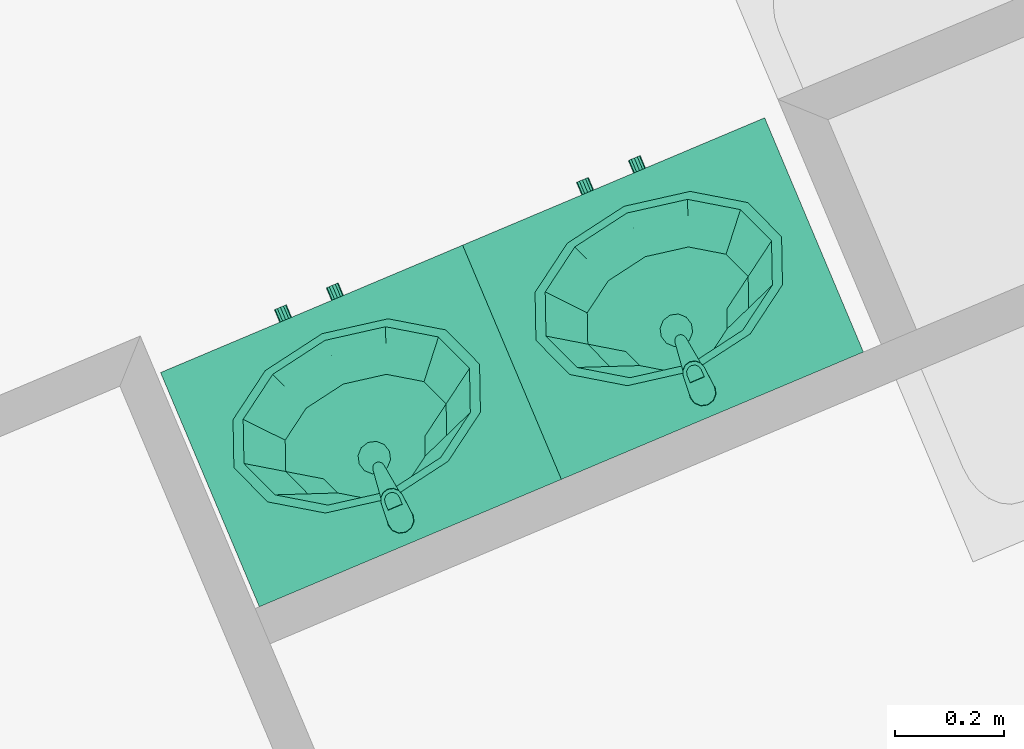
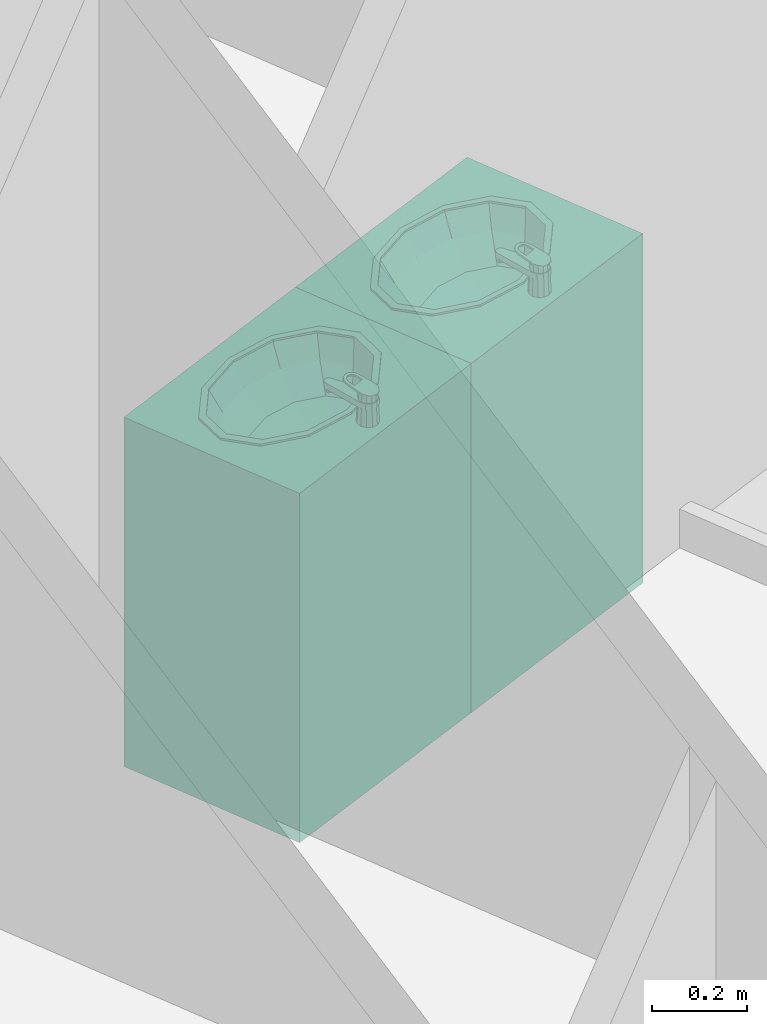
# One storey, part 91 of 121: 2 distribution elements.
"""IFC2X3 building model written with IfcOpenShell, lengths in metres."""

from ifc_helpers import new_model, entity, si_unit, converted_unit, derived_unit, money_unit, direction, frame, origin_with_axes, place, context, subcontext, project, spatial, open_shell, faceted_brep, surface_model, source, transform, mapped, type_object, element, save


model = new_model("IFC2X3")

# Units and contexts
model_context = context("Model", 3, precision=1e-05, world=origin_with_axes(), true_north=direction((0.0, 1.0)))
body_context = subcontext(model_context, "Body", "Model", "MODEL_VIEW")
ifc_project = project(units=[si_unit("LENGTHUNIT", "METRE"), si_unit("AREAUNIT", "SQUARE_METRE"), si_unit("VOLUMEUNIT", "CUBIC_METRE"), converted_unit("PLANEANGLEUNIT", "DEGREE", entity("IfcPlaneAngleMeasure", 0.0174532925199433), si_unit("PLANEANGLEUNIT", "RADIAN"), dimensions=[0, 0, 0, 0, 0, 0, 0]), money_unit("CHF"), converted_unit("TIMEUNIT", "Year", entity("IfcTimeMeasure", 31557600.0), si_unit("TIMEUNIT", "SECOND"), dimensions=[0, 0, 1, 0, 0, 0, 0]), si_unit("MASSUNIT", "GRAM", prefix="KILO"), si_unit("THERMODYNAMICTEMPERATUREUNIT", "DEGREE_CELSIUS"), si_unit("LUMINOUSINTENSITYUNIT", "LUMEN"), si_unit("ENERGYUNIT", "JOULE", prefix="MEGA"), derived_unit("THERMALCONDUCTANCEUNIT", [(si_unit("POWERUNIT", "WATT"), 1), (si_unit("LENGTHUNIT", "METRE"), -1), (si_unit("THERMODYNAMICTEMPERATUREUNIT", "KELVIN"), -1)]), derived_unit("SPECIFICHEATCAPACITYUNIT", [(si_unit("ENERGYUNIT", "JOULE"), 1), (si_unit("MASSUNIT", "GRAM", prefix="KILO"), -1), (si_unit("THERMODYNAMICTEMPERATUREUNIT", "KELVIN"), -1)]), derived_unit("MASSDENSITYUNIT", [(si_unit("MASSUNIT", "GRAM", prefix="KILO"), 1), (si_unit("VOLUMEUNIT", "CUBIC_METRE"), -1)])], contexts=[model_context])

# Site, building, storey
site_placement = place(None, origin_with_axes())
site = spatial("IfcSite", under=ifc_project, at=site_placement, Name="Site", CompositionType="ELEMENT")
building_placement = place(site_placement, origin_with_axes())
building = spatial("IfcBuilding", under=site, at=building_placement, Name="Bâtiment", CompositionType="ELEMENT")
storey_placement = place(building_placement, frame((0.0, 0.0, 2.75), z_axis=(0.0, 0.0, 1.0), x_axis=(1.0, 0.0, 0.0)))
storey = spatial("IfcBuildingStorey", under=building, at=storey_placement, Name="Etage 1", CompositionType="ELEMENT", Elevation=2.75)

# Distribution elements
distribution_element_type = type_object("IfcDistributionElementType", Name="Lavabo sur meuble 27")
shared_shape = source(origin_with_axes(), body_context, "Body", "SurfaceModel", [
    faceted_brep([(0.0, 0.0, 0.0), (0.0, 0.0, 0.1), (-0.6, 0.0, 0.1), (-0.6, 0.0, 0.0), (0.0, 0.4653441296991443, 0.0), (0.0, 0.4653441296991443, 0.1), (-0.6, 0.4653441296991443, 0.1), (-0.6, 0.4653441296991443, 0.0)], [[[0, 1, 2, 3]], [[4, 5, 1, 0]], [[1, 5, 6, 2]], [[3, 2, 6, 7]], [[0, 3, 7, 4]], [[7, 6, 5, 4]]]),
    faceted_brep([(0.0, 0.0, 0.1), (0.0, 0.0, 0.12), (-0.02, 0.0, 0.12), (-0.02, 0.0, 0.1), (0.0, 0.4653441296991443, 0.1), (0.0, 0.4653441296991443, 0.12), (-0.02, 0.4653441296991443, 0.12), (-0.58, 0.4653441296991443, 0.12), (-0.6, 0.4653441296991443, 0.12), (-0.6, 0.0, 0.12), (-0.58, 0.0, 0.12), (-0.58, 0.0, 0.1), (-0.6, 0.0, 0.1), (-0.6, 0.4653441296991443, 0.1), (-0.58, 0.4653441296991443, 0.1), (-0.02, 0.4653441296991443, 0.1)], [[[0, 1, 2, 3]], [[4, 5, 1, 0]], [[1, 5, 6, 7, 8, 9, 10, 2]], [[3, 2, 10, 11]], [[0, 3, 11, 12, 13, 14, 15, 4]], [[15, 6, 5, 4]], [[14, 7, 6, 15]], [[13, 8, 7, 14]], [[12, 9, 8, 13]], [[11, 10, 9, 12]]]),
    faceted_brep([(0.0, 0.0, 0.12), (0.0, 0.0, 0.85), (-0.02, 0.0, 0.85), (-0.02, 0.0, 0.12), (0.0, 0.4653441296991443, 0.12), (0.0, 0.4653441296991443, 0.85), (-0.6, 0.4653441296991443, 0.85), (-0.6, 0.0, 0.85), (-0.58, 0.0, 0.85), (-0.58, 0.4453441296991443, 0.85), (-0.02, 0.4453441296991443, 0.85), (-0.02, 0.4453441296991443, 0.12), (-0.58, 0.4453441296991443, 0.12), (-0.58, 0.0, 0.12), (-0.6, 0.0, 0.12), (-0.6, 0.4653441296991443, 0.12)], [[[0, 1, 2, 3]], [[4, 5, 1, 0]], [[1, 5, 6, 7, 8, 9, 10, 2]], [[3, 2, 10, 11]], [[0, 3, 11, 12, 13, 14, 15, 4]], [[15, 6, 5, 4]], [[14, 7, 6, 15]], [[13, 8, 7, 14]], [[12, 9, 8, 13]], [[11, 10, 9, 12]]]),
    faceted_brep([(-0.58, 0.0, 0.3233333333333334), (-0.58, 0.0, 0.3433333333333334), (-0.58, 0.4453441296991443, 0.3433333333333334), (-0.58, 0.4453441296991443, 0.3233333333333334), (-0.02, 0.0, 0.3233333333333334), (-0.02, 0.0, 0.3433333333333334), (-0.02, 0.4453441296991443, 0.3433333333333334), (-0.02, 0.4453441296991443, 0.3233333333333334)], [[[0, 1, 2, 3]], [[4, 5, 1, 0]], [[1, 5, 6, 2]], [[3, 2, 6, 7]], [[0, 3, 7, 4]], [[7, 6, 5, 4]]]),
    faceted_brep([(-0.58, 0.0, 0.5666666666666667), (-0.58, 0.0, 0.5866666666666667), (-0.58, 0.4453441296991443, 0.5866666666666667), (-0.58, 0.4453441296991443, 0.5666666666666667), (-0.02, 0.0, 0.5666666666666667), (-0.02, 0.0, 0.5866666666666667), (-0.02, 0.4453441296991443, 0.5866666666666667), (-0.02, 0.4453441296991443, 0.5666666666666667)], [[[0, 1, 2, 3]], [[4, 5, 1, 0]], [[1, 5, 6, 2]], [[3, 2, 6, 7]], [[0, 3, 7, 4]], [[7, 6, 5, 4]]]),
    faceted_brep([(0.0, 0.4653441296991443, 0.85), (0.0, 0.0, 0.85), (-0.6, 0.0, 0.85), (-0.6, 0.4653441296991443, 0.85), (-0.4124999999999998, 0.08276825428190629, 0.85), (-0.3, 0.06267206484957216, 0.85), (-0.1874999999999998, 0.08276825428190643, 0.85), (-0.1051442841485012, 0.1376720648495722, 0.85), (-0.07499999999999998, 0.2126720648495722, 0.85), (-0.1051442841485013, 0.2876720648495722, 0.85), (-0.1875000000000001, 0.342575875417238, 0.85), (-0.3, 0.3626720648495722, 0.85), (-0.4125, 0.3425758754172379, 0.85), (-0.4948557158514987, 0.2876720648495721, 0.85), (-0.525, 0.2126720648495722, 0.85), (-0.4948557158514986, 0.137672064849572, 0.85), (0.0, 0.4653441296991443, 0.9), (0.0, 0.0, 0.9), (-0.6, 0.0, 0.9), (-0.6, 0.4653441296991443, 0.9), (-0.3, 0.06267206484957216, 0.9), (-0.4124999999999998, 0.08276825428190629, 0.9), (-0.1874999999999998, 0.08276825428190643, 0.9), (-0.1051442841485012, 0.1376720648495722, 0.9), (-0.07499999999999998, 0.2126720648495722, 0.9), (-0.1051442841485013, 0.2876720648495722, 0.9), (-0.1875000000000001, 0.342575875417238, 0.9), (-0.3, 0.3626720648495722, 0.9), (-0.4125, 0.3425758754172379, 0.9), (-0.4948557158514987, 0.2876720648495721, 0.9), (-0.525, 0.2126720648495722, 0.9), (-0.4948557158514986, 0.137672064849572, 0.9)], [[[0, 1, 2, 3], [4, 5, 6, 7, 8, 9, 10, 11, 12, 13, 14, 15]], [[1, 0, 16, 17]], [[2, 1, 17, 18]], [[3, 2, 18, 19]], [[0, 3, 19, 16]], [[20, 5, 4, 21]], [[22, 6, 5, 20]], [[23, 7, 6, 22]], [[24, 8, 7, 23]], [[25, 9, 8, 24]], [[26, 10, 9, 25]], [[27, 11, 10, 26]], [[28, 12, 11, 27]], [[29, 13, 12, 28]], [[30, 14, 13, 29]], [[31, 15, 14, 30]], [[21, 4, 15, 31]], [[18, 17, 16, 19], [28, 27, 26, 25, 24, 23, 22, 20, 21, 31, 30, 29]]]),
    faceted_brep([(-0.544, 0.2126720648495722, 0.905), (-0.511310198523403, 0.2943684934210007, 0.905), (-0.511310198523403, 0.2943684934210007, 0.9), (-0.544, 0.2126720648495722, 0.9), (-0.5113101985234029, 0.1309756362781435, 0.905), (-0.4219999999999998, 0.07116969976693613, 0.905), (-0.3, 0.04927920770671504, 0.905), (-0.1779999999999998, 0.07116969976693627, 0.905), (-0.08868980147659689, 0.1309756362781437, 0.905), (-0.05599999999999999, 0.2126720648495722, 0.905), (-0.088689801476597, 0.2943684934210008, 0.905), (-0.178, 0.3541744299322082, 0.905), (-0.3, 0.3760649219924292, 0.905), (-0.422, 0.3541744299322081, 0.905), (-0.524, 0.2126720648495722, 0.905), (-0.4939896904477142, 0.2876720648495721, 0.905), (-0.412, 0.3425758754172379, 0.905), (-0.3, 0.3626720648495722, 0.905), (-0.1880000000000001, 0.342575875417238, 0.905), (-0.1060103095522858, 0.2876720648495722, 0.905), (-0.07599999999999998, 0.2126720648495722, 0.905), (-0.1060103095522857, 0.1376720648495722, 0.905), (-0.1879999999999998, 0.08276825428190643, 0.905), (-0.3, 0.06267206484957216, 0.905), (-0.4119999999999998, 0.08276825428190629, 0.905), (-0.4939896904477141, 0.137672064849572, 0.905), (-0.422, 0.3541744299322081, 0.9), (-0.3, 0.3760649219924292, 0.9), (-0.178, 0.3541744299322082, 0.9), (-0.088689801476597, 0.2943684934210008, 0.9), (-0.05599999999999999, 0.2126720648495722, 0.9), (-0.08868980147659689, 0.1309756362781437, 0.9), (-0.1779999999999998, 0.07116969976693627, 0.9), (-0.3, 0.04927920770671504, 0.9), (-0.4219999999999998, 0.07116969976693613, 0.9), (-0.5113101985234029, 0.1309756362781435, 0.9), (-0.524, 0.2126720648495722, 0.9), (-0.4939896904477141, 0.137672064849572, 0.9), (-0.4119999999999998, 0.08276825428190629, 0.9), (-0.3, 0.06267206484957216, 0.9), (-0.1879999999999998, 0.08276825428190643, 0.9), (-0.1060103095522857, 0.1376720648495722, 0.9), (-0.07599999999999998, 0.2126720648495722, 0.9), (-0.1060103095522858, 0.2876720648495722, 0.9), (-0.1880000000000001, 0.342575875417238, 0.9), (-0.3, 0.3626720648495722, 0.9), (-0.412, 0.3425758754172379, 0.9), (-0.4939896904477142, 0.2876720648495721, 0.9)], [[[0, 1, 2, 3]], [[0, 4, 5, 6, 7, 8, 9, 10, 11, 12, 13, 1], [14, 15, 16, 17, 18, 19, 20, 21, 22, 23, 24, 25]], [[1, 13, 26, 2]], [[3, 2, 26, 27, 28, 29, 30, 31, 32, 33, 34, 35], [36, 37, 38, 39, 40, 41, 42, 43, 44, 45, 46, 47]], [[4, 0, 3, 35]], [[5, 4, 35, 34]], [[6, 5, 34, 33]], [[7, 6, 33, 32]], [[8, 7, 32, 31]], [[9, 8, 31, 30]], [[10, 9, 30, 29]], [[11, 10, 29, 28]], [[12, 11, 28, 27]], [[13, 12, 27, 26]], [[15, 14, 36, 47]], [[16, 15, 47, 46]], [[17, 16, 46, 45]], [[18, 17, 45, 44]], [[19, 18, 44, 43]], [[20, 19, 43, 42]], [[21, 20, 42, 41]], [[22, 21, 41, 40]], [[23, 22, 40, 39]], [[24, 23, 39, 38]], [[25, 24, 38, 37]], [[14, 25, 37, 36]]]),
    surface_model("IfcShellBasedSurfaceModel", [(-0.3, 0.3626720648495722, 0.9), (-0.412, 0.342575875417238, 0.9), (-0.4008, 0.3445854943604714, 0.848), (-0.3, 0.3626720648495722, 0.848), (-0.4939896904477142, 0.2876720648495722, 0.9), (-0.4745907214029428, 0.2951720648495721, 0.848), (-0.1879999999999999, 0.3425758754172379, 0.9), (-0.1991999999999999, 0.3445854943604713, 0.848), (-0.524, 0.2126720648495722, 0.9), (-0.5016, 0.2276720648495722, 0.848), (-0.1060103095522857, 0.2876720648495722, 0.9), (-0.1254092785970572, 0.2951720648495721, 0.848), (-0.4939896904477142, 0.1376720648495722, 0.9), (-0.4745907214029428, 0.1601720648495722, 0.848), (-0.07599999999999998, 0.2126720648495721, 0.9), (-0.09839999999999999, 0.2276720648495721, 0.848), (-0.412, 0.08276825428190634, 0.9), (-0.4008, 0.1107586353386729, 0.848), (-0.1060103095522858, 0.1376720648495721, 0.9), (-0.1254092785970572, 0.1601720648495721, 0.848), (-0.3, 0.06267206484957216, 0.9), (-0.3, 0.09267206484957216, 0.848), (-0.1879999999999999, 0.08276825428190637, 0.9), (-0.1992, 0.110758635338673, 0.848)], [open_shell([[[0, 1, 2, 3]], [[1, 4, 5, 2]], [[6, 0, 3, 7]], [[4, 8, 9, 5]], [[10, 6, 7, 11]], [[8, 12, 13, 9]], [[14, 10, 11, 15]], [[12, 16, 17, 13]], [[18, 14, 15, 19]], [[16, 20, 21, 17]], [[22, 18, 19, 23]], [[20, 22, 23, 21]]])]),
    surface_model("IfcShellBasedSurfaceModel", [(-0.3, 0.3626720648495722, 0.848), (-0.4008, 0.3445854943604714, 0.848), (-0.379632, 0.3483836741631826, 0.7959999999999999), (-0.3, 0.3626720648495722, 0.7959999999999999), (-0.4745907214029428, 0.2951720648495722, 0.848), (-0.4379266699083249, 0.3093470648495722, 0.7959999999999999), (-0.1991999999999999, 0.3445854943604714, 0.848), (-0.2203679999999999, 0.3483836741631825, 0.7959999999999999), (-0.5016, 0.2276720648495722, 0.848), (-0.459264, 0.2560220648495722, 0.7959999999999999), (-0.1254092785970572, 0.2951720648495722, 0.848), (-0.1620733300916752, 0.3093470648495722, 0.7959999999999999), (-0.4745907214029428, 0.1601720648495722, 0.848), (-0.4379266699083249, 0.2026970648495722, 0.7959999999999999), (-0.09839999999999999, 0.2276720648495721, 0.848), (-0.140736, 0.2560220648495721, 0.7959999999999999), (-0.4008, 0.1107586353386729, 0.848), (-0.379632, 0.1636604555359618, 0.7959999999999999), (-0.1254092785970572, 0.1601720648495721, 0.848), (-0.1620733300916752, 0.2026970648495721, 0.7959999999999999), (-0.3, 0.09267206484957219, 0.848), (-0.3, 0.1493720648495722, 0.7959999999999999), (-0.1992, 0.110758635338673, 0.848), (-0.220368, 0.1636604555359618, 0.7959999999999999)], [open_shell([[[0, 1, 2, 3]], [[1, 4, 5, 2]], [[6, 0, 3, 7]], [[4, 8, 9, 5]], [[10, 6, 7, 11]], [[8, 12, 13, 9]], [[14, 10, 11, 15]], [[12, 16, 17, 13]], [[18, 14, 15, 19]], [[16, 20, 21, 17]], [[22, 18, 19, 23]], [[20, 22, 23, 21]]])]),
    surface_model("IfcShellBasedSurfaceModel", [(-0.3, 0.3626720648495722, 0.7959999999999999), (-0.379632, 0.3483836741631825, 0.7959999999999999), (-0.35016816, 0.3536703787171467, 0.7699999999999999), (-0.3, 0.3626720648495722, 0.7699999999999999), (-0.4379266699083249, 0.3093470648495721, 0.7959999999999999), (-0.3868938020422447, 0.3290773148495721, 0.7699999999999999), (-0.2203679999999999, 0.3483836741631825, 0.7959999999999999), (-0.2498318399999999, 0.3536703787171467, 0.7699999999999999), (-0.459264, 0.2560220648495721, 0.7959999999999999), (-0.40033632, 0.2954825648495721, 0.7699999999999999), (-0.1620733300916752, 0.3093470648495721, 0.7959999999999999), (-0.2131061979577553, 0.3290773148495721, 0.7699999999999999), (-0.4379266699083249, 0.2026970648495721, 0.7959999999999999), (-0.3868938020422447, 0.2618878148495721, 0.7699999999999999), (-0.140736, 0.2560220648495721, 0.7959999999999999), (-0.19966368, 0.2954825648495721, 0.7699999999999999), (-0.379632, 0.1636604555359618, 0.7959999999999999), (-0.35016816, 0.2372947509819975, 0.7699999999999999), (-0.1620733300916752, 0.2026970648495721, 0.7959999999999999), (-0.2131061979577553, 0.2618878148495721, 0.7699999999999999), (-0.3, 0.1493720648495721, 0.7959999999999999), (-0.3, 0.2282930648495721, 0.7699999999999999), (-0.220368, 0.1636604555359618, 0.7959999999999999), (-0.24983184, 0.2372947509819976, 0.7699999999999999)], [open_shell([[[0, 1, 2, 3]], [[1, 4, 5, 2]], [[6, 0, 3, 7]], [[4, 8, 9, 5]], [[10, 6, 7, 11]], [[8, 12, 13, 9]], [[14, 10, 11, 15]], [[12, 16, 17, 13]], [[18, 14, 15, 19]], [[16, 20, 21, 17]], [[22, 18, 19, 23]], [[20, 22, 23, 21]]])]),
    surface_model("IfcShellBasedSurfaceModel", [(-0.3, 0.3626720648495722, 0.7699999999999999), (-0.35016816, 0.3536703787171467, 0.7699999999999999), (-0.315, 0.3214633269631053, 0.7629999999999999), (-0.3259807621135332, 0.3104825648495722, 0.7629999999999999), (-0.3, 0.3254825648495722, 0.7629999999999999), (-0.3868938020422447, 0.3290773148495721, 0.7699999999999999), (-0.2498318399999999, 0.3536703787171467, 0.7699999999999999), (-0.33, 0.2954825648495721, 0.7629999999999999), (-0.285, 0.3214633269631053, 0.7629999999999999), (-0.40033632, 0.2954825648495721, 0.7699999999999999), (-0.2131061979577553, 0.3290773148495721, 0.7699999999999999), (-0.3259807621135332, 0.2804825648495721, 0.7629999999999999), (-0.2740192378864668, 0.3104825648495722, 0.7629999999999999), (-0.3868938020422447, 0.2618878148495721, 0.7699999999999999), (-0.19966368, 0.2954825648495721, 0.7699999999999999), (-0.315, 0.269501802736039, 0.7629999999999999), (-0.27, 0.2954825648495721, 0.7629999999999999), (-0.35016816, 0.2372947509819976, 0.7699999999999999), (-0.2131061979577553, 0.2618878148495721, 0.7699999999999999), (-0.3, 0.2654825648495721, 0.7629999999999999), (-0.2740192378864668, 0.2804825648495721, 0.7629999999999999), (-0.3, 0.2282930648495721, 0.7699999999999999), (-0.24983184, 0.2372947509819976, 0.7699999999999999), (-0.285, 0.269501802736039, 0.7629999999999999)], [open_shell([[[0, 1, 2]], [[1, 3, 2]], [[0, 2, 4]], [[1, 5, 3]], [[6, 0, 4]], [[5, 7, 3]], [[6, 4, 8]], [[5, 9, 7]], [[10, 6, 8]], [[9, 11, 7]], [[10, 8, 12]], [[9, 13, 11]], [[14, 10, 12]], [[13, 15, 11]], [[14, 12, 16]], [[13, 17, 15]], [[18, 14, 16]], [[17, 19, 15]], [[18, 16, 20]], [[17, 21, 19]], [[22, 18, 20]], [[21, 23, 19]], [[22, 20, 23]], [[21, 22, 23]]])]),
    surface_model("IfcShellBasedSurfaceModel", [(-0.33, 0.2954825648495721, 0.763), (-0.3259807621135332, 0.3104825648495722, 0.763), (-0.3259807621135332, 0.3104825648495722, 0.758), (-0.33, 0.2954825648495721, 0.758), (-0.315, 0.3214633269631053, 0.763), (-0.315, 0.3214633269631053, 0.758), (-0.3, 0.3254825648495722, 0.758), (-0.285, 0.3214633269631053, 0.758), (-0.2740192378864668, 0.3104825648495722, 0.758), (-0.27, 0.2954825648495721, 0.758), (-0.2740192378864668, 0.2804825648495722, 0.758), (-0.285, 0.269501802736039, 0.758), (-0.3, 0.2654825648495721, 0.758), (-0.3149999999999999, 0.269501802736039, 0.758), (-0.3259807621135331, 0.2804825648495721, 0.758), (-0.3259807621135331, 0.2804825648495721, 0.763), (-0.3, 0.3254825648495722, 0.763), (-0.285, 0.3214633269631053, 0.763), (-0.2740192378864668, 0.3104825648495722, 0.763), (-0.27, 0.2954825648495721, 0.763), (-0.2740192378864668, 0.2804825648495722, 0.763), (-0.285, 0.269501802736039, 0.763), (-0.3, 0.2654825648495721, 0.763), (-0.3149999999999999, 0.269501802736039, 0.763)], [open_shell([[[0, 1, 2, 3]], [[1, 4, 5, 2]], [[3, 2, 5, 6, 7, 8, 9, 10, 11, 12, 13, 14]], [[15, 0, 3, 14]], [[4, 16, 6, 5]], [[16, 17, 7, 6]], [[17, 18, 8, 7]], [[18, 19, 9, 8]], [[19, 20, 10, 9]], [[20, 21, 11, 10]], [[21, 22, 12, 11]], [[22, 23, 13, 12]], [[23, 15, 14, 13]]])]),
    faceted_brep([(-0.3125, 0.4406587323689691, 0.9), (-0.310587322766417, 0.4373458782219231, 0.976507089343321), (-0.3, 0.4402100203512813, 0.9759615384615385), (-0.3, 0.4440080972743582, 0.9), (-0.3216506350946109, 0.4315080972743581, 0.9), (-0.3182735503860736, 0.4295583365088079, 0.9779904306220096), (-0.321, 0.4190080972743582, 0.98), (-0.3181003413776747, 0.4085578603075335, 0.9819905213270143), (-0.3104141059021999, 0.400970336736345, 0.9834357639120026), (-0.3, 0.3982062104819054, 0.9839622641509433), (-0.2895858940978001, 0.400970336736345, 0.9834357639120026), (-0.2818996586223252, 0.4085578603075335, 0.9819905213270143), (-0.279, 0.4190080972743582, 0.98), (-0.2817264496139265, 0.4295583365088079, 0.9779904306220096), (-0.289412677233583, 0.4373458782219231, 0.976507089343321), (-0.2875, 0.4406587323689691, 0.9), (-0.278349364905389, 0.4315080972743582, 0.9), (-0.275, 0.4190080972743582, 0.9), (-0.278349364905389, 0.4065080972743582, 0.9), (-0.2875, 0.3973574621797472, 0.9), (-0.3, 0.3940080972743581, 0.9), (-0.3125, 0.3973574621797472, 0.9), (-0.3216506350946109, 0.4065080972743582, 0.9), (-0.325, 0.4190080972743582, 0.9)], [[[0, 1, 2, 3]], [[4, 5, 1, 0]], [[1, 5, 6, 7, 8, 9, 10, 11, 12, 13, 14, 2]], [[3, 2, 14, 15]], [[0, 3, 15, 16, 17, 18, 19, 20, 21, 22, 23, 4]], [[23, 6, 5, 4]], [[22, 7, 6, 23]], [[21, 8, 7, 22]], [[20, 9, 8, 21]], [[19, 10, 9, 20]], [[18, 11, 10, 19]], [[17, 12, 11, 18]], [[16, 13, 12, 17]], [[15, 14, 13, 16]]]),
    faceted_brep([(-0.309, 0.3160080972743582, 0.935), (-0.309, 0.3160080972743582, 0.9450000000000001), (-0.3077942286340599, 0.3205080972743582, 0.9450000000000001), (-0.3077942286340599, 0.3205080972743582, 0.935), (-0.3077942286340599, 0.3115080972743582, 0.935), (-0.3077942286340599, 0.3115080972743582, 0.9450000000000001), (-0.3045, 0.3082138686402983, 0.9450000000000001), (-0.3, 0.3070080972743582, 0.9450000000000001), (-0.2955, 0.3082138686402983, 0.9450000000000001), (-0.2922057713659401, 0.3115080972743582, 0.9450000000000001), (-0.291, 0.3160080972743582, 0.9450000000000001), (-0.2922057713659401, 0.3205080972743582, 0.9450000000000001), (-0.2955, 0.3238023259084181, 0.9450000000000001), (-0.3, 0.3250080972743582, 0.9450000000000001), (-0.3045, 0.3238023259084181, 0.9450000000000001), (-0.3045, 0.3238023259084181, 0.935), (-0.3, 0.3250080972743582, 0.935), (-0.2955, 0.3238023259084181, 0.935), (-0.2922057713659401, 0.3205080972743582, 0.935), (-0.291, 0.3160080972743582, 0.935), (-0.2922057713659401, 0.3115080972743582, 0.935), (-0.2955, 0.3082138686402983, 0.935), (-0.3, 0.3070080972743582, 0.935), (-0.3045, 0.3082138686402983, 0.935)], [[[0, 1, 2, 3]], [[4, 5, 1, 0]], [[1, 5, 6, 7, 8, 9, 10, 11, 12, 13, 14, 2]], [[3, 2, 14, 15]], [[0, 3, 15, 16, 17, 18, 19, 20, 21, 22, 23, 4]], [[23, 6, 5, 4]], [[22, 7, 6, 23]], [[21, 8, 7, 22]], [[20, 9, 8, 21]], [[19, 10, 9, 20]], [[18, 11, 10, 19]], [[17, 12, 11, 18]], [[16, 13, 12, 17]], [[15, 14, 13, 16]]]),
    faceted_brep([(-0.2871282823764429, 0.439264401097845, 0.9600000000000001), (-0.300000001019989, 0.44300807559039, 0.9600000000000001), (-0.3128717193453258, 0.4392644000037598, 0.9600000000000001), (-0.3217278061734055, 0.4292013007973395, 0.9600000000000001), (-0.3238053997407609, 0.4159581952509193, 0.9600000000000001), (-0.310912, 0.3146197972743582, 0.9600000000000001), (-0.309028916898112, 0.3097249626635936, 0.9600000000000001), (-0.3050933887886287, 0.3062584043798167, 0.9600000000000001), (-0.300000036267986, 0.305008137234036, 0.9600000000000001), (-0.2949066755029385, 0.3062583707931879, 0.9600000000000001), (-0.2909711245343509, 0.3097249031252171, 0.9600000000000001), (-0.2890880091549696, 0.3146197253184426, 0.9600000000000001), (-0.2761946, 0.4159581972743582, 0.9600000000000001), (-0.2782721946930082, 0.4292013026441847, 0.9600000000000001), (-0.311, 0.4380606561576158, 0.9600000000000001), (-0.3, 0.4410080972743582, 0.9600000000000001), (-0.289, 0.4380606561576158, 0.9600000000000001), (-0.2809474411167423, 0.4300080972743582, 0.9600000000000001), (-0.278, 0.4190080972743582, 0.9600000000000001), (-0.2809474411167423, 0.4080080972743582, 0.9600000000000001), (-0.289, 0.3999555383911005, 0.9600000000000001), (-0.3, 0.3970080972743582, 0.9600000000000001), (-0.3109999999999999, 0.3999555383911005, 0.9600000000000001), (-0.3190525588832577, 0.4080080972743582, 0.9600000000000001), (-0.322, 0.4190080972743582, 0.9600000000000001), (-0.3190525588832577, 0.4300080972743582, 0.9600000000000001), (-0.2871282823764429, 0.439264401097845, 0.9450000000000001), (-0.300000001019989, 0.44300807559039, 0.9450000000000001), (-0.3128717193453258, 0.4392644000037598, 0.9450000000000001), (-0.3217278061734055, 0.4292013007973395, 0.9450000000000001), (-0.3238053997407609, 0.4159581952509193, 0.9450000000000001), (-0.310912, 0.3146197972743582, 0.9450000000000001), (-0.309028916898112, 0.3097249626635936, 0.9450000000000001), (-0.3050933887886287, 0.3062584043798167, 0.9450000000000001), (-0.300000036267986, 0.305008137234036, 0.9450000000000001), (-0.2949066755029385, 0.3062583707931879, 0.9450000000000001), (-0.2909711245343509, 0.3097249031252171, 0.9450000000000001), (-0.2890880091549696, 0.3146197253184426, 0.9450000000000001), (-0.2761946, 0.4159581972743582, 0.9450000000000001), (-0.2782721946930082, 0.4292013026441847, 0.9450000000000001), (-0.3, 0.4417580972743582, 0.9450000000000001), (-0.311375, 0.4387101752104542, 0.9450000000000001), (-0.288625, 0.4387101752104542, 0.9450000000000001), (-0.280297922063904, 0.4303830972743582, 0.9450000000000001), (-0.2772499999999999, 0.4190080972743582, 0.9450000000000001), (-0.280297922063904, 0.4076330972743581, 0.9450000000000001), (-0.288625, 0.3993060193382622, 0.9450000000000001), (-0.3, 0.3962580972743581, 0.9450000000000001), (-0.311375, 0.3993060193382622, 0.9450000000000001), (-0.319702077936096, 0.4076330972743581, 0.9450000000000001), (-0.32275, 0.4190080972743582, 0.9450000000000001), (-0.319702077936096, 0.4303830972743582, 0.9450000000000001)], [[[0, 1, 2, 3, 4, 5, 6, 7, 8, 9, 10, 11, 12, 13], [14, 15, 16, 17, 18, 19, 20, 21, 22, 23, 24, 25]], [[26, 27, 1, 0]], [[27, 28, 2, 1]], [[28, 29, 3, 2]], [[29, 30, 4, 3]], [[30, 31, 5, 4]], [[31, 32, 6, 5]], [[32, 33, 7, 6]], [[33, 34, 8, 7]], [[34, 35, 9, 8]], [[35, 36, 10, 9]], [[36, 37, 11, 10]], [[37, 38, 12, 11]], [[38, 39, 13, 12]], [[39, 26, 0, 13]], [[40, 15, 14, 41]], [[42, 16, 15, 40]], [[16, 42, 43, 17]], [[17, 43, 44, 18]], [[18, 44, 45, 19]], [[19, 45, 46, 20]], [[20, 46, 47, 21]], [[48, 22, 21, 47]], [[49, 23, 22, 48]], [[50, 24, 23, 49]], [[51, 25, 24, 50]], [[41, 14, 25, 51]], [[34, 33, 32, 31, 30, 29, 28, 27, 26, 39, 38, 37, 36, 35], [48, 47, 46, 45, 44, 43, 42, 40, 41, 51, 50, 49]]]),
    faceted_brep([(-0.323893, 0.4173155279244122, 0.9803223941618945), (-0.323893, 0.4180639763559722, 0.9842517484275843), (-0.3212964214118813, 0.4305312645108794, 0.9818770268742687), (-0.3212964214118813, 0.4297828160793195, 0.9779476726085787), (-0.3209459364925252, 0.377171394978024, 0.9879688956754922), (-0.3209459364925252, 0.377919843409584, 0.9918982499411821), (-0.317663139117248, 0.3682421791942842, 0.9937416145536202), (-0.3100614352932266, 0.3612927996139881, 0.995065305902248), (-0.2999995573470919, 0.3587709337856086, 0.9955456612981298), (-0.289937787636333, 0.3612932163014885, 0.9950652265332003), (-0.2823363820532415, 0.3682429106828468, 0.9937414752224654), (-0.279054, 0.3779207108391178, 0.991898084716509), (-0.2761069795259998, 0.4180642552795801, 0.9842516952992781), (-0.2787037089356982, 0.4305315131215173, 0.9818769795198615), (-0.2875283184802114, 0.4398477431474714, 0.9801024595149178), (-0.3000001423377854, 0.4432885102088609, 0.9794470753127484), (-0.3124719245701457, 0.4398475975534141, 0.9801024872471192), (-0.314, 0.3942157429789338, 0.9887942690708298), (-0.286, 0.3942157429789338, 0.9887942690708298), (-0.286, 0.3794001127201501, 0.9916162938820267), (-0.2878756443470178, 0.3725237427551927, 0.9929260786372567), (-0.293, 0.3674898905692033, 0.9938849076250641), (-0.3, 0.3656473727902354, 0.9942358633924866), (-0.307, 0.3674898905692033, 0.9938849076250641), (-0.3121243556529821, 0.3725237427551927, 0.9929260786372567), (-0.314, 0.3794001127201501, 0.9916162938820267), (-0.3124719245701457, 0.4390991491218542, 0.9761731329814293), (-0.3000001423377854, 0.4425400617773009, 0.9755177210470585), (-0.2875283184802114, 0.4390992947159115, 0.976173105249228), (-0.2787037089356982, 0.4297830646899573, 0.9779476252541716), (-0.2761069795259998, 0.4173158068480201, 0.9803223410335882), (-0.279054, 0.3771722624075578, 0.9879687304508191), (-0.2823363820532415, 0.3674944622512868, 0.9898121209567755), (-0.289937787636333, 0.3605447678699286, 0.9911358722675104), (-0.2999995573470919, 0.3580224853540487, 0.9916163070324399), (-0.3100614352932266, 0.3605443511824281, 0.9911359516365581), (-0.317663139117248, 0.3674937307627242, 0.9898122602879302), (-0.314, 0.3934672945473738, 0.9848649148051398), (-0.314, 0.37865166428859, 0.9876869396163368), (-0.3121243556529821, 0.3717752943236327, 0.9889967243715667), (-0.307, 0.3667414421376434, 0.9899555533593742), (-0.3, 0.3648989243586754, 0.9903065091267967), (-0.293, 0.3667414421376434, 0.9899555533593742), (-0.2878756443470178, 0.3717752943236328, 0.9889967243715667), (-0.286, 0.37865166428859, 0.9876869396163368), (-0.286, 0.3934672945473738, 0.9848649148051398)], [[[0, 1, 2, 3]], [[4, 5, 1, 0]], [[1, 5, 6, 7, 8, 9, 10, 11, 12, 13, 14, 15, 16, 2], [17, 18, 19, 20, 21, 22, 23, 24, 25]], [[3, 2, 16, 26]], [[0, 3, 26, 27, 28, 29, 30, 31, 32, 33, 34, 35, 36, 4], [37, 38, 39, 40, 41, 42, 43, 44, 45]], [[36, 6, 5, 4]], [[35, 7, 6, 36]], [[34, 8, 7, 35]], [[33, 9, 8, 34]], [[32, 10, 9, 33]], [[31, 11, 10, 32]], [[30, 12, 11, 31]], [[29, 13, 12, 30]], [[28, 14, 13, 29]], [[27, 15, 14, 28]], [[26, 16, 15, 27]], [[45, 18, 17, 37]], [[44, 19, 18, 45]], [[43, 20, 19, 44]], [[42, 21, 20, 43]], [[41, 22, 21, 42]], [[40, 23, 22, 41]], [[39, 24, 23, 40]], [[38, 25, 24, 39]], [[37, 17, 25, 38]]]),
    surface_model("IfcShellBasedSurfaceModel", [(-0.001500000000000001, 0.0, 0.1015), (-0.2985, 0.0, 0.1015), (-0.2985, 0.0, 0.8485), (-0.001500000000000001, 0.0, 0.8485)], [open_shell([[[0, 1, 2, 3]]])]),
    faceted_brep([(-0.2588923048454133, 0.0, 0.7855), (-0.2605, 0.0, 0.7915), (-0.2588923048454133, 0.0, 0.7975), (-0.2545, 0.0, 0.8018923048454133), (-0.2485, 0.0, 0.8035), (-0.2425, 0.0, 0.8018923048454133), (-0.2381076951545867, 0.0, 0.7975), (-0.2365, 0.0, 0.7915), (-0.2381076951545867, 0.0, 0.7855), (-0.2425, 0.0, 0.7811076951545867), (-0.2485, 0.0, 0.7795), (-0.2545, 0.0, 0.7811076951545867), (-0.2588923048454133, -0.025, 0.7855), (-0.2605, -0.025, 0.7915), (-0.2588923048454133, -0.025, 0.7975), (-0.2545, -0.025, 0.8018923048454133), (-0.2485, -0.025, 0.8035), (-0.2425, -0.025, 0.8018923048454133), (-0.2381076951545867, -0.025, 0.7975), (-0.2365, -0.025, 0.7915), (-0.2381076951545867, -0.025, 0.7855), (-0.2425, -0.025, 0.7811076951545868), (-0.2485, -0.025, 0.7795), (-0.2545, -0.025, 0.7811076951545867)], [[[0, 1, 2, 3, 4, 5, 6, 7, 8, 9, 10, 11]], [[0, 12, 13, 1]], [[1, 13, 14, 2]], [[2, 14, 15, 3]], [[3, 15, 16, 4]], [[4, 16, 17, 5]], [[5, 17, 18, 6]], [[6, 18, 19, 7]], [[7, 19, 20, 8]], [[8, 20, 21, 9]], [[9, 21, 22, 10]], [[10, 22, 23, 11]], [[11, 23, 12, 0]], [[12, 23, 22, 21, 20, 19, 18, 17, 16, 15, 14, 13]]]),
    surface_model("IfcShellBasedSurfaceModel", [(-0.5985, 0.0, 0.1015), (-0.5985, 0.0, 0.8485), (-0.3015000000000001, 0.0, 0.8485), (-0.3015000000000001, 0.0, 0.1015)], [open_shell([[[0, 1, 2, 3]]])]),
    faceted_brep([(-0.3411076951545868, 0.0, 0.7855), (-0.3455, 0.0, 0.7811076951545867), (-0.3515, 0.0, 0.7795), (-0.3575, 0.0, 0.7811076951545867), (-0.3618923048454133, 0.0, 0.7855), (-0.3635, 0.0, 0.7915), (-0.3618923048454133, 0.0, 0.7975), (-0.3575, 0.0, 0.8018923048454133), (-0.3515, 0.0, 0.8035), (-0.3455, 0.0, 0.8018923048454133), (-0.3411076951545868, 0.0, 0.7975), (-0.3395, 0.0, 0.7915), (-0.3411076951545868, -0.025, 0.7855), (-0.3455, -0.025, 0.7811076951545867), (-0.3515, -0.025, 0.7795), (-0.3575, -0.025, 0.7811076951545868), (-0.3618923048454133, -0.025, 0.7855), (-0.3635, -0.025, 0.7915), (-0.3618923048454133, -0.025, 0.7975), (-0.3575, -0.025, 0.8018923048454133), (-0.3515, -0.025, 0.8035), (-0.3455, -0.025, 0.8018923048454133), (-0.3411076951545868, -0.025, 0.7975), (-0.3395, -0.025, 0.7915)], [[[0, 1, 2, 3, 4, 5, 6, 7, 8, 9, 10, 11]], [[1, 0, 12, 13]], [[2, 1, 13, 14]], [[3, 2, 14, 15]], [[4, 3, 15, 16]], [[5, 4, 16, 17]], [[6, 5, 17, 18]], [[7, 6, 18, 19]], [[8, 7, 19, 20]], [[9, 8, 20, 21]], [[10, 9, 21, 22]], [[11, 10, 22, 23]], [[0, 11, 23, 12]], [[12, 23, 22, 21, 20, 19, 18, 17, 16, 15, 14, 13]]]),
])
for number, where, z_axis, x_axis, name in (
    (1, (9573.632322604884, -1056.602163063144, 57.59999999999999), (0.0, 0.0, 1.0), (-0.9214205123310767, -0.3885669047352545, 0.0), "Obj.-004"),
    (2, (9574.185174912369, -1056.369022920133, 57.59999999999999), (0.0, 0.0, 1.0), (-0.9214205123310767, -0.3885669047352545, 0.0), "Obj.-004"),
):
    element("IfcDistributionElement", number, at=place(storey_placement, frame(where, z_axis=z_axis, x_axis=x_axis)), inside=storey, type_object=distribution_element_type, Name=name, context=body_context, shape_type="MappedRepresentation", body=[
        mapped(shared_shape, transform((0.0, 0.0, 0.0))),
    ])

save(model, "model.ifc")
